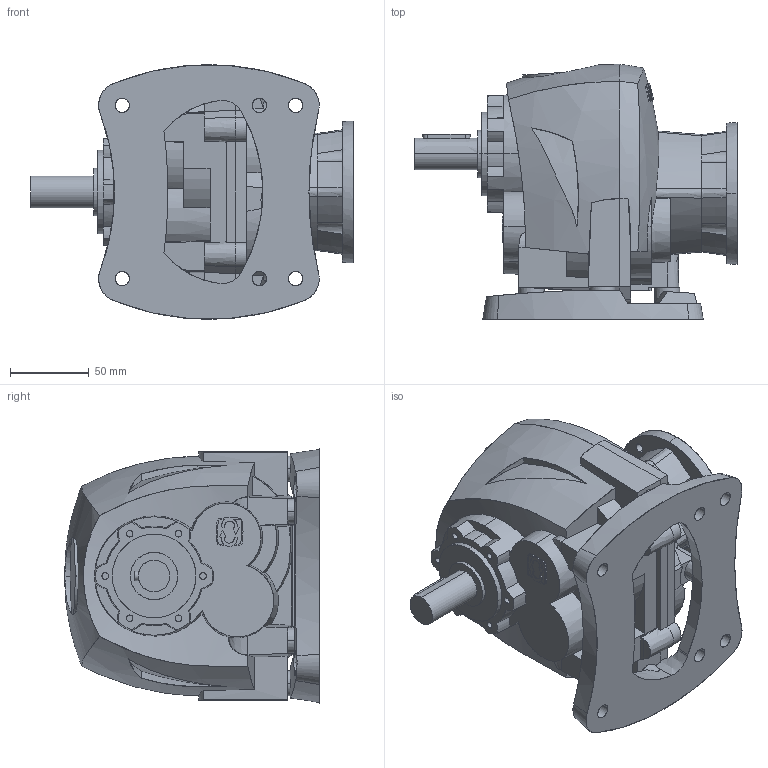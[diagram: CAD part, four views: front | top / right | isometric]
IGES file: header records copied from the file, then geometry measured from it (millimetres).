
Start section: SolidWorks IGES file using analytic representation for surfaces
Global section: file name: C:\Users\Tahir Momin\Desktop\RBA2_UNV_OFL_FSW_OPTION-5\RBA2_IFL63B4_FSW_OSH20L40.IGS; native system: SolidWorks 2012; preprocessor: SolidWorks 2012; author: Tahir Momin; date: 130207.143530; units: millimetre
Bounding box: 204.5 x 161.88 x 161.67 mm (x, y, z)
Surface area: 151778.5 mm2 (no closed solid volume)
Topology: 0 solids, 0 shells, 552 faces, 6247 edges, 6245 vertices
Faces by surface type: bspline 319, revolution 233
